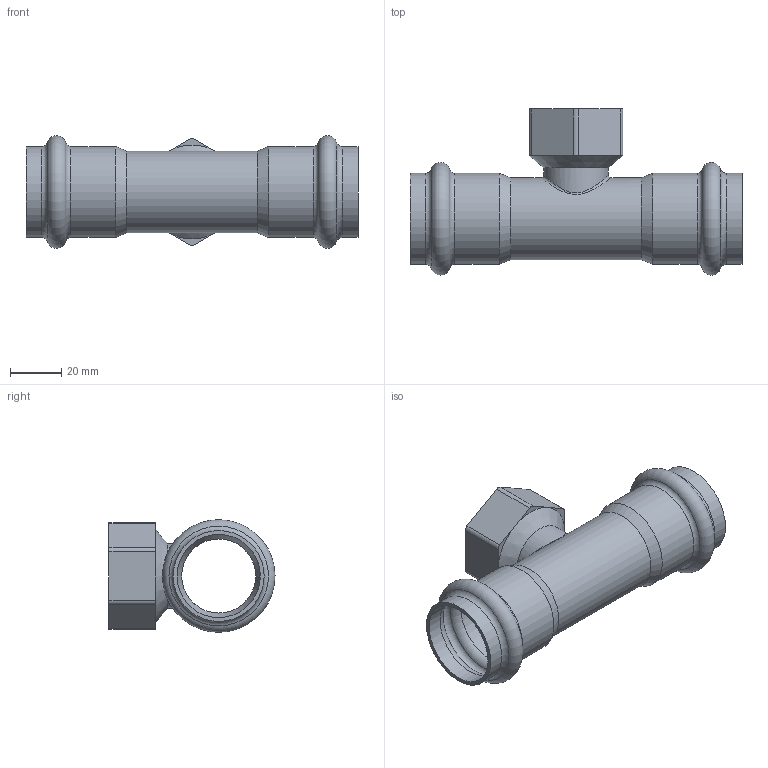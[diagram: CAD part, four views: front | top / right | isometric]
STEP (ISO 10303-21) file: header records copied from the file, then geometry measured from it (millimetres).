
FILE_DESCRIPTION(/* description */ (''),/* implementation_level */ '2;1');
FILE_NAME(/* name */ '51267030201.stp',/* time_stamp */ '2020-06-22T14:53:18+08:00',/* author */ (''),/* organization */ (''),/* preprocessor_version */ 'ST-DEVELOPER v11',/* originating_system */ 'SIEMENS PLM Software NX 7.5',/* authorisation */ '');
FILE_SCHEMA (('CONFIG_CONTROL_DESIGN'));
Length unit declared in the file: millimetre
Products named in the file (1): Admi4F60b491
Bounding box: 130 x 65.03 x 44.11 mm (x, y, z)
Volume: 31241.9 mm3; surface area: 35356.4 mm2
Topology: 1 solids, 1 shells, 49 faces, 107 edges, 62 vertices
Faces by surface type: cylinder 19, torus 12, plane 10, cone 7, bspline 1
Full cylindrical faces by diameter (mm): 23.4 x1, 25.4 x1, 29 x1, 30.3 x1, 32 x1, 32.6 x4, 35.6 x4
Entity records: 1457 total; most frequent: CARTESIAN_POINT 408, DIRECTION 214, ORIENTED_EDGE 146, AXIS2_PLACEMENT_3D 95, EDGE_LOOP 88, FACE_BOUND 76, EDGE_CURVE 73, VERTEX_POINT 61
